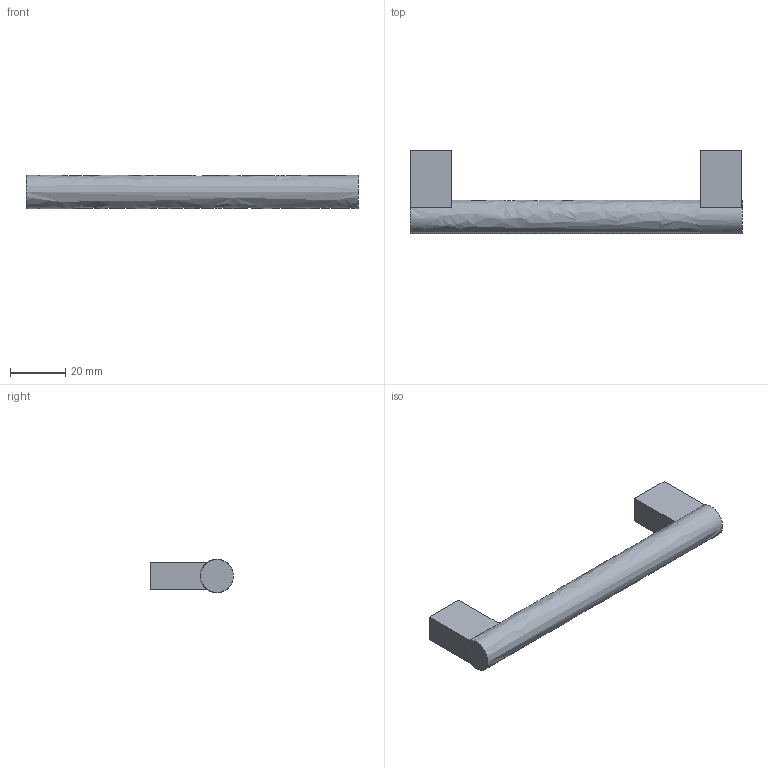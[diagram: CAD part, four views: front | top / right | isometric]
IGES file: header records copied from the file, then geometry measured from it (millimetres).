
Start section: Data from Parasolid IGES Translator 15.0.47, Copyright(c) 2006 Siemens P LM Software. All Rights Reserved.
Global section: file name: 9995497.igs; native system:  By UGS Corp.; preprocessor: XPlus GENERIC/IGES 3.0; author: Noname; organization: Noname; date: 20140122.144033; units: millimetre
Bounding box: 120 x 30 x 12 mm (x, y, z)
Surface area: 6889.3 mm2 (no closed solid volume)
Topology: 0 solids, 0 shells, 17 faces, 66 edges, 62 vertices
Faces by surface type: extrusion 14, revolution 3
